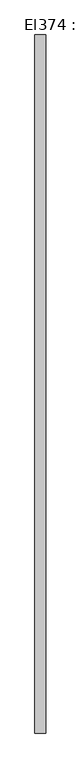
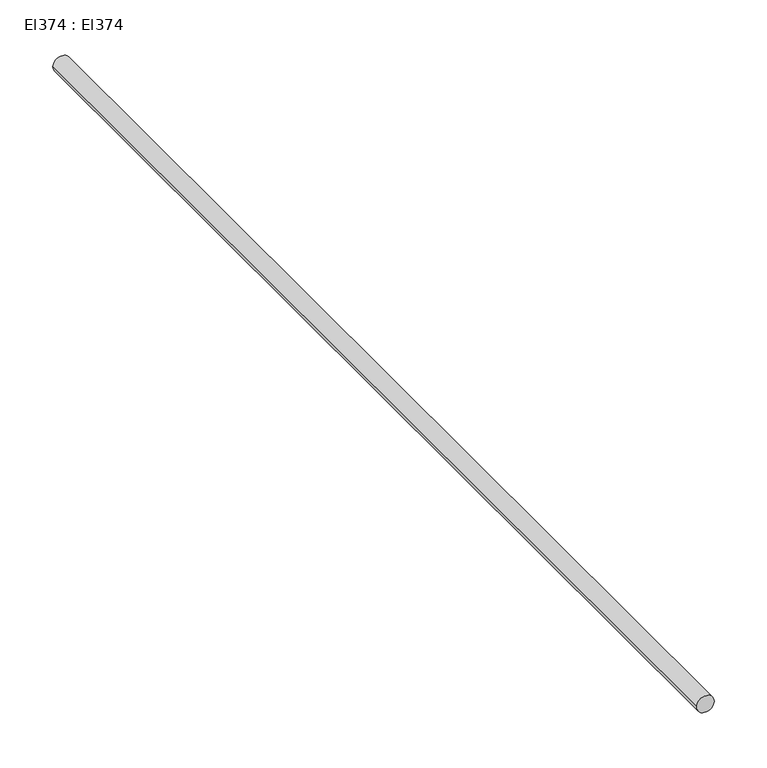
"""IFC4 building model written with IfcOpenShell, lengths in millimetres: cable carrier segment geometry, El374 : El374."""

from ifc_helpers import new_model, si_unit, point, frame, frame_2d, origin, place, context, project, spatial, circle_curve, trimmed, segment, composite_curve, outline, extrude, source, transform, mapped, element, save


def el374_el374_bb6282b9(model_context):
    return source(origin(), model_context, "Body", "SweptSolid", [
        extrude(outline(composite_curve([segment(trimmed(circle_curve(frame_2d((300.0, 6600.0)), 9.5), [point((300.0, 6590.5))], [point((300.0, 6609.5))], False, "CARTESIAN"), True, "CONTINUOUS"), segment(trimmed(circle_curve(frame_2d((300.0, 6600.0)), 9.5), [point((300.0, 6609.5))], [point((300.0, 6590.5))], False, "CARTESIAN"), True, "CONTINUOUS")], self_intersect=False)), frame((0.0, 16326.409, 0.0), z_axis=(0.0, 1.0, 0.0), x_axis=(0.0, 0.0, 1.0)), (0.0, 0.0, 1.0), 1217.18),
    ])


if __name__ == "__main__":
    model = new_model("IFC4")
    model_context = context("Model", 3, world=origin())
    ifc_project = project(units=[si_unit("LENGTHUNIT", "METRE", prefix="MILLI")], contexts=[model_context])
    site = spatial("IfcSite", under=ifc_project)
    building = spatial("IfcBuilding", under=site)
    placement = place(None, origin())
    el374_el374_shape = el374_el374_bb6282b9(model_context)
    element("IfcCableCarrierSegment", 1, ObjectType="El374 : El374", at=placement, inside=building, context=model_context, shape_type="MappedRepresentation", body=[
        mapped(el374_el374_shape, transform((0.0, 0.0, 0.0), x_axis=(1.0, 0.0, 0.0), y_axis=(0.0, 1.0, 0.0), z_axis=(0.0, 0.0, 1.0))),
    ])
    save(model, "model.ifc")
